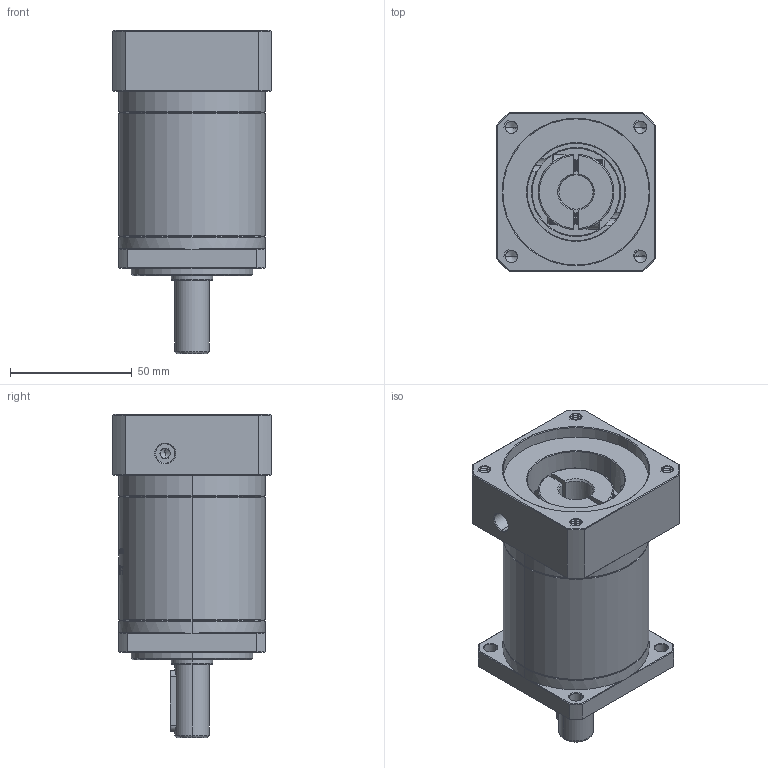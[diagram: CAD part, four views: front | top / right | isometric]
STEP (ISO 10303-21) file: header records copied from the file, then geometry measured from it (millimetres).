
FILE_DESCRIPTION (( 'STEP AP214' ), '1' );
FILE_NAME ('ZF060-D14-L2-P2-14-60-75-M6.step', '2023-08-16T04:23:42', ( '' ), ( '' ), 'SwSTEP 2.0', 'SolidWorks 2016', '' );
FILE_SCHEMA (( 'AUTOMOTIVE_DESIGN' ));
Length unit declared in the file: millimetre
Products named in the file (1): ZF060-D14-L2-P2-14-60-75-M6
Bounding box: 65 x 65 x 132.5 mm (x, y, z)
Volume: 282609 mm3; surface area: 50328.1 mm2
Topology: 6 solids, 6 shells, 1775 faces, 4797 edges, 3106 vertices
Faces by surface type: plane 799, cylinder 368, bspline 354, cone 234, torus 20
Entity records: 101659 total; most frequent: CARTESIAN_POINT 41813, ORIENTED_EDGE 9566, DIRECTION 6860, EDGE_CURVE 4783, VERTEX_POINT 3106, VECTOR 2430, LINE 2430, AXIS2_PLACEMENT_3D 2215
